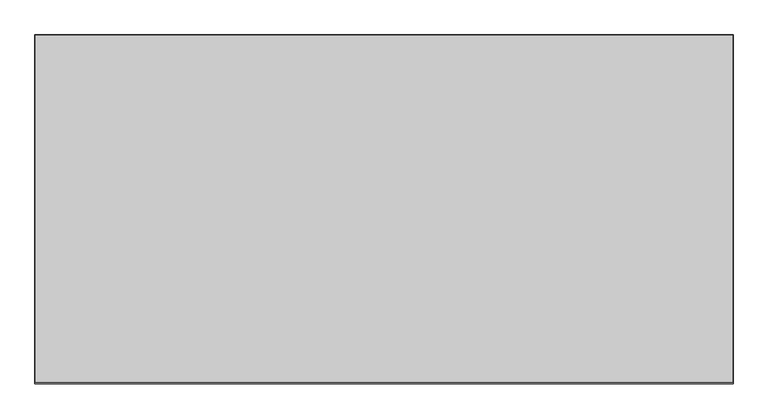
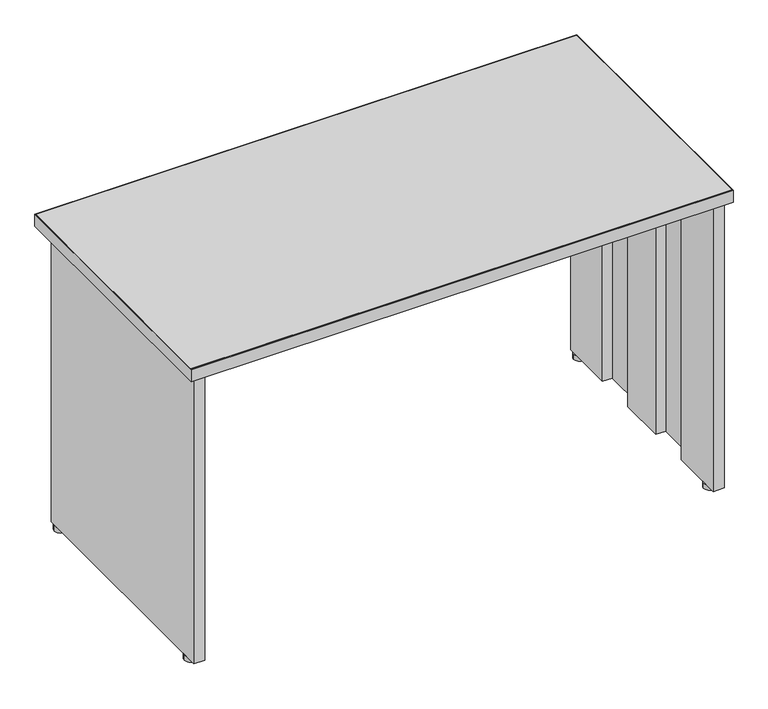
"""IFC4 building model written with IfcOpenShell, lengths in millimetres: furniture geometry, Steelcase - Kick Freestanding - Desk Shell - Partial Height Modesty Panel : 24D x 48W."""

from ifc_helpers import new_model, si_unit, point, frame, frame_2d, origin, origin_with_axes, place, context, project, spatial, polyline, circle_curve, trimmed, segment, composite_curve, outline, extrude, source, transform, mapped, element, save


def furniture_1831a49a(model_context):
    return source(origin(), model_context, "Body", "SweptSolid", [
        extrude(outline(polyline([(677.0450425, -999.9647597), (677.0450425, -974.5647604), (1821.8738425, -974.5647604), (1821.8738425, -999.9647597), (677.0450425, -999.9647597)])), frame((0.0, 0.0, 390.144), z_axis=(0.0, 0.0, 1.0), x_axis=(1.0, 0.0, 0.0)), (0.0, 0.0, 1.0), 304.8),
        extrude(outline(composite_curve([segment(trimmed(circle_curve(frame_2d((665.1357759, -986.9367877)), 13.97), [point((651.1657759, -986.9367877))], [point((679.1057759, -986.9367877))], False, "CARTESIAN"), True, "CONTINUOUS"), segment(trimmed(circle_curve(frame_2d((665.1357759, -986.9367877)), 13.97), [point((679.1057759, -986.9367877))], [point((651.1657759, -986.9367877))], False, "CARTESIAN"), True, "CONTINUOUS")], self_intersect=False)), origin_with_axes(), (0.0, 0.0, 1.0), 12.446),
        extrude(outline(composite_curve([segment(trimmed(circle_curve(frame_2d((665.1357759, -1493.6441481)), 13.97), [point((651.1657759, -1493.6441481))], [point((679.1057759, -1493.6441481))], False, "CARTESIAN"), True, "CONTINUOUS"), segment(trimmed(circle_curve(frame_2d((665.1357759, -1493.6441481)), 13.97), [point((679.1057759, -1493.6441481))], [point((651.1657759, -1493.6441481))], False, "CARTESIAN"), True, "CONTINUOUS")], self_intersect=False)), origin_with_axes(), (0.0, 0.0, 1.0), 12.446),
        extrude(outline(polyline([(1821.8738425, -1096.0529604), (1821.8738425, -972.7867604), (1846.3594421, -972.7867604), (1846.3594421, -1528.538741), (1821.8738421, -1528.538741), (1821.8738421, -1404.2311348), (1844.3020425, -1404.2311348), (1844.3020425, -1304.5107682), (1821.8738421, -1304.5107682), (1821.8738421, -1195.7733647), (1844.3020425, -1195.7733647), (1844.3020425, -1096.0529604), (1821.8738425, -1096.0529604)])), frame((0.0, 0.0, 12.446), z_axis=(0.0, 0.0, 1.0), x_axis=(1.0, 0.0, 0.0)), (0.0, 0.0, 1.0), 682.498),
        extrude(outline(polyline([(677.0450425, -1096.0529604), (654.6168425, -1096.0529604), (654.6168425, -1195.7733647), (677.0450429, -1195.7733647), (677.0450429, -1304.5107682), (654.6168425, -1304.5107682), (654.6168425, -1404.2311348), (677.0450429, -1404.2311348), (677.0450429, -1528.538741), (652.5594429, -1528.538741), (652.5594429, -972.7867604), (677.0450425, -972.7867604), (677.0450425, -1096.0529604)])), frame((0.0, 0.0, 12.446), z_axis=(0.0, 0.0, 1.0), x_axis=(1.0, 0.0, 0.0)), (0.0, 0.0, 1.0), 682.498),
        extrude(outline(polyline([(1858.0688425, -932.6293604), (1858.0688425, -1538.2669215), (640.8500425, -1538.2669215), (640.8500425, -932.6293604), (1858.0688425, -932.6293604)])), frame((0.0, 0.0, 694.944), z_axis=(0.0, 0.0, 1.0), x_axis=(1.0, 0.0, 0.0)), (0.0, 0.0, 1.0), 28.956),
        extrude(outline(polyline([(1859.0594425, -931.6387604), (1859.0594425, -1541.2387604), (639.8594425, -1541.2387604), (639.8594425, -931.6387604), (1859.0594425, -931.6387604)]), holes=[polyline([(1858.0688425, -932.6293604), (640.8500425, -932.6293604), (640.8500425, -1538.2669215), (1858.0688425, -1538.2669215), (1858.0688425, -932.6293604)])]), frame((0.0, 0.0, 694.944), z_axis=(0.0, 0.0, 1.0), x_axis=(1.0, 0.0, 0.0)), (0.0, 0.0, 1.0), 28.956),
        extrude(outline(composite_curve([segment(trimmed(circle_curve(frame_2d((1833.7831091, -1493.6441481)), 13.97), [point((1819.8131091, -1493.6441481))], [point((1847.7531091, -1493.6441481))], False, "CARTESIAN"), True, "CONTINUOUS"), segment(trimmed(circle_curve(frame_2d((1833.7831091, -1493.6441481)), 13.97), [point((1847.7531091, -1493.6441481))], [point((1819.8131091, -1493.6441481))], False, "CARTESIAN"), True, "CONTINUOUS")], self_intersect=False)), origin_with_axes(), (0.0, 0.0, 1.0), 12.446),
        extrude(outline(composite_curve([segment(trimmed(circle_curve(frame_2d((1833.7831091, -986.9367877)), 13.97), [point((1847.7531091, -986.9367877))], [point((1819.8131091, -986.9367877))], False, "CARTESIAN"), True, "CONTINUOUS"), segment(trimmed(circle_curve(frame_2d((1833.7831091, -986.9367877)), 13.97), [point((1819.8131091, -986.9367877))], [point((1847.7531091, -986.9367877))], False, "CARTESIAN"), True, "CONTINUOUS")], self_intersect=False)), origin_with_axes(), (0.0, 0.0, 1.0), 12.446),
    ])


if __name__ == "__main__":
    model = new_model("IFC4")
    model_context = context("Model", 3, world=origin())
    ifc_project = project(units=[si_unit("LENGTHUNIT", "METRE", prefix="MILLI")], contexts=[model_context])
    site = spatial("IfcSite", under=ifc_project)
    building = spatial("IfcBuilding", under=site)
    placement = place(None, origin())
    furniture_shape = furniture_1831a49a(model_context)
    element("IfcFurniture", 1, ObjectType="Steelcase - Kick Freestanding - Desk Shell - Partial Height Modesty Panel : 24D x 48W", at=placement, inside=building, context=model_context, shape_type="MappedRepresentation", body=[
        mapped(furniture_shape, transform((0.0, 0.0, 0.0), x_axis=(1.0, 0.0, 0.0), y_axis=(0.0, 1.0, 0.0), z_axis=(0.0, 0.0, 1.0))),
    ])
    save(model, "model.ifc")
